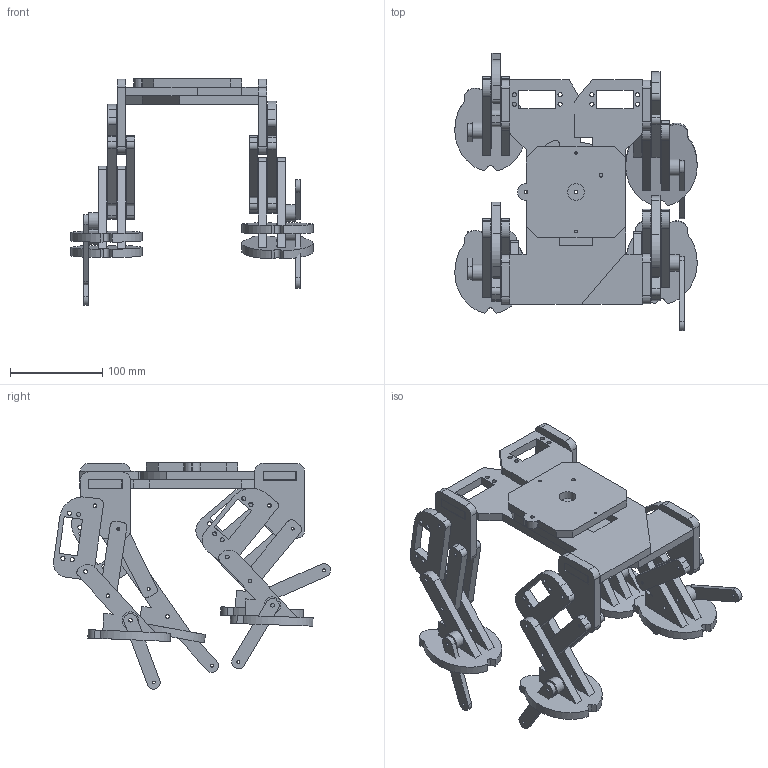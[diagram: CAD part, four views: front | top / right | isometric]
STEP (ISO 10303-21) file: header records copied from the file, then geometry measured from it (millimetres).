
FILE_DESCRIPTION(/* description */ (''),/* implementation_level */ '2;1');
FILE_NAME(/* name */ 'Assembly4.stp',/* time_stamp */ '2026-05-11T18:17:44+07:00',/* author */ ('Martina'),/* organization */ (''),/* preprocessor_version */ 'ST-DEVELOPER v20.1',/* originating_system */ 'Autodesk Inventor 2026',/* authorisation */ '');
FILE_SCHEMA (('AUTOMOTIVE_DESIGN { 1 0 10303 214 3 1 1 }'));
Length unit declared in the file: millimetre
Products named in the file (30): Assembly4; Component4; Component4_1; stub; Component2; Spacer6; Uleg01; telapak kaki; Component2_1; uleg1; Hip; Component2_MIR; Spacer6_MIR; Uleg01_MIR; telapak kaki_MIR; Component2_MIR_1; LegLver_MIR; Component2_MIR1; Spacer6_MIR1; Uleg01_MIR1; telapak kaki_MIR1; Component2_MIR1_1; LegLver_MIR1; Component2_MIR_MIR; Spacer6_MIR_MIR; Uleg01_MIR_MIR; telapak kaki_MIR_MIR; Component2_MIR_MIR_1; LegLver_MIR_MIR; hip hitam
Assembly tree (39 placements, depth 2):
  Assembly4
    Component4
    Component4_1
    stub
    Hip  x2
    Component2
    Component2_1  x2
    Spacer6
    Uleg01
    uleg1  x2
    telapak kaki
    Component2_MIR
    Component2_MIR_1  x2
    Spacer6_MIR
    Uleg01_MIR
    LegLver_MIR  x2
    telapak kaki_MIR
    Component2_MIR1
    Component2_MIR1_1  x2
    Spacer6_MIR1
    Uleg01_MIR1
    LegLver_MIR1  x2
    telapak kaki_MIR1
    Component2_MIR_MIR
    Component2_MIR_MIR_1  x2
    Spacer6_MIR_MIR
    Uleg01_MIR_MIR
    LegLver_MIR_MIR  x2
    telapak kaki_MIR_MIR
    hip hitam  x2
Bounding box: 262.19 x 300.19 x 245.07 mm (x, y, z)
Volume: 1223859.2 mm3; surface area: 388686.5 mm2
Topology: 39 solids, 39 shells, 614 faces, 1602 edges, 1068 vertices
Faces by surface type: plane 392, cylinder 206, bspline 16
Full cylindrical faces by diameter (mm): 2.8 x8, 3.2 x20, 3.99 x2, 4.06 x44, 4.2 x2, 4.5 x24, 4.6 x4, 18 x5
Entity records: 16180 total; most frequent: CARTESIAN_POINT 2709, DIRECTION 2592, ORIENTED_EDGE 2436, EDGE_CURVE 1218, LINE 882, VECTOR 882, AXIS2_PLACEMENT_3D 855, VERTEX_POINT 812
